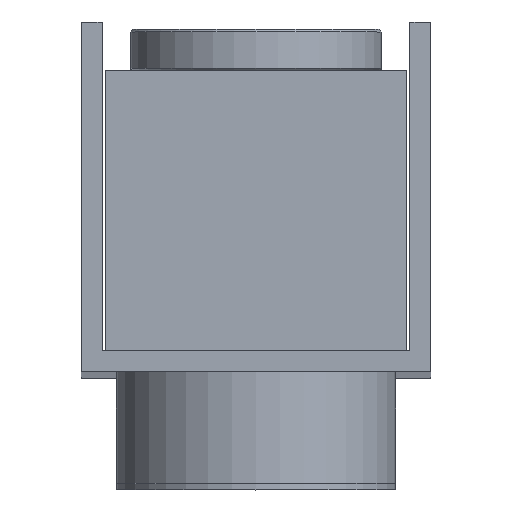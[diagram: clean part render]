
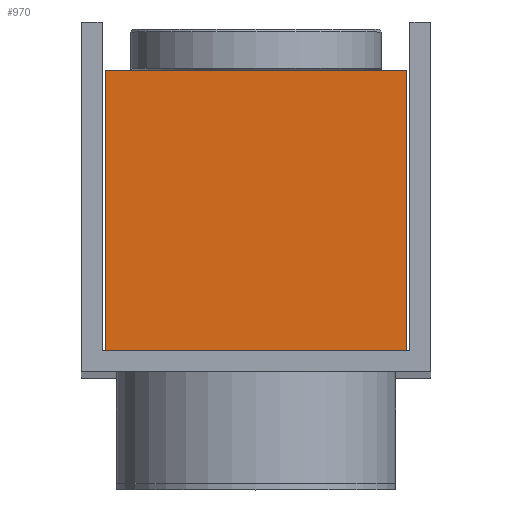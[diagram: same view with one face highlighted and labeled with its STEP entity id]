
A CAD part, top view. The second image highlights one B-rep face of the part: STEP entity #970.
In plain terms, the highlighted planar face has unit normal (0, 0, 1).
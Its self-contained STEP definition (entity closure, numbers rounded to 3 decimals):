
#75=PLANE('',#1066);
#124=FACE_OUTER_BOUND('',#191,.T.);
#191=EDGE_LOOP('',(#753,#754,#755,#756));
#276=LINE('',#1498,#363);
#284=LINE('',#1513,#371);
#285=LINE('',#1515,#372);
#286=LINE('',#1516,#373);
#363=VECTOR('',#1211,10.);
#371=VECTOR('',#1223,10.);
#372=VECTOR('',#1226,10.);
#373=VECTOR('',#1227,10.);
#479=VERTEX_POINT('',#1495);
#480=VERTEX_POINT('',#1497);
#484=VERTEX_POINT('',#1509);
#485=VERTEX_POINT('',#1511);
#578=EDGE_CURVE('',#479,#480,#276,.T.);
#586=EDGE_CURVE('',#484,#485,#284,.T.);
#587=EDGE_CURVE('',#479,#484,#285,.T.);
#588=EDGE_CURVE('',#480,#485,#286,.T.);
#753=ORIENTED_EDGE('',*,*,#587,.T.);
#754=ORIENTED_EDGE('',*,*,#586,.T.);
#755=ORIENTED_EDGE('',*,*,#588,.F.);
#756=ORIENTED_EDGE('',*,*,#578,.F.);
#970=ADVANCED_FACE('',(#124),#75,.T.);
#1066=AXIS2_PLACEMENT_3D('',#1514,#1224,#1225);
#1211=DIRECTION('',(0.,1.,0.));
#1223=DIRECTION('',(0.,1.,0.));
#1224=DIRECTION('center_axis',(0.,0.,1.));
#1225=DIRECTION('ref_axis',(1.,0.,0.));
#1226=DIRECTION('',(1.,0.,0.));
#1227=DIRECTION('',(1.,0.,0.));
#1495=CARTESIAN_POINT('',(-10.75,1.5,275.75));
#1497=CARTESIAN_POINT('',(-10.75,21.5,275.75));
#1498=CARTESIAN_POINT('',(-10.75,1.5,275.75));
#1509=CARTESIAN_POINT('',(10.75,1.5,275.75));
#1511=CARTESIAN_POINT('',(10.75,21.5,275.75));
#1513=CARTESIAN_POINT('',(10.75,1.5,275.75));
#1514=CARTESIAN_POINT('Origin',(-10.75,1.5,275.75));
#1515=CARTESIAN_POINT('',(-10.75,1.5,275.75));
#1516=CARTESIAN_POINT('',(-10.75,21.5,275.75));
